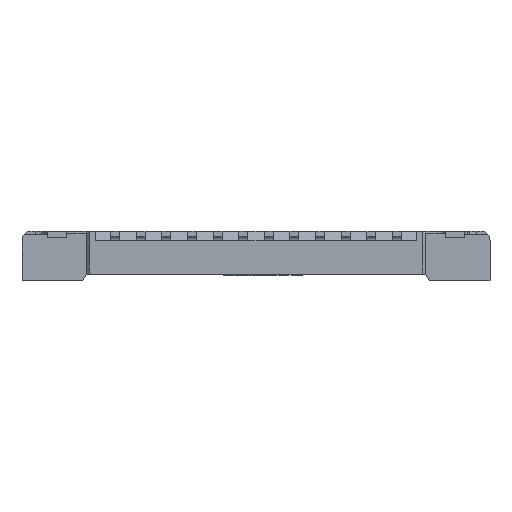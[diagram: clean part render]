
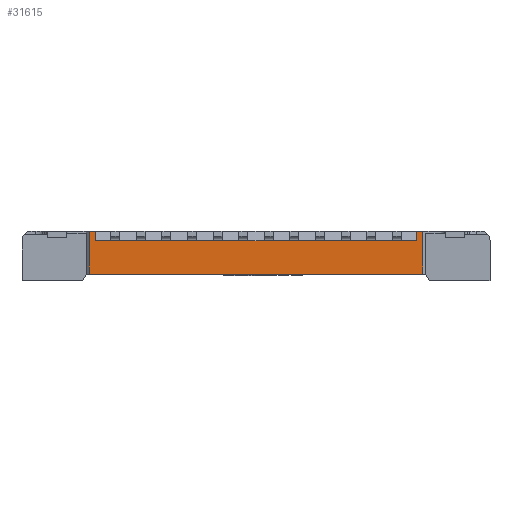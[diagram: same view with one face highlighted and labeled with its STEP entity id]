
A CAD part, top view. The second image highlights one B-rep face of the part: STEP entity #31615.
In plain terms, the highlighted planar face has unit normal (0, 0, 1).
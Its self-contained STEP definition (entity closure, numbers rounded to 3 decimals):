
#1195 = CARTESIAN_POINT ( 'NONE',  ( 2.6, 0.77, 1.1 ) ) ;
#2341 = CARTESIAN_POINT ( 'NONE',  ( -2.5, 0.62, 1.1 ) ) ;
#2760 = CARTESIAN_POINT ( 'NONE',  ( 2.5, 0.77, 1.1 ) ) ;
#3556 = CARTESIAN_POINT ( 'NONE',  ( -2.6, 0.1, 1.1 ) ) ;
#5243 = FACE_OUTER_BOUND ( 'NONE', #38778, .T. ) ;
#5848 = VERTEX_POINT ( 'NONE', #24535 ) ;
#6241 = AXIS2_PLACEMENT_3D ( 'NONE', #31354, #34463, #27643 ) ;
#7545 = ORIENTED_EDGE ( 'NONE', *, *, #38374, .F. ) ;
#8506 = LINE ( 'NONE', #21160, #12706 ) ;
#8823 = VERTEX_POINT ( 'NONE', #2760 ) ;
#9468 = CARTESIAN_POINT ( 'NONE',  ( 2.6, 0.1, 1.1 ) ) ;
#9781 = LINE ( 'NONE', #3556, #21197 ) ;
#10575 = CARTESIAN_POINT ( 'NONE',  ( 2.6, 0.1, 1.1 ) ) ;
#10917 = DIRECTION ( 'NONE',  ( 0., 1., 0. ) ) ;
#11115 = VECTOR ( 'NONE', #10917, 1000. ) ;
#11936 = LINE ( 'NONE', #21886, #28212 ) ;
#11973 = CARTESIAN_POINT ( 'NONE',  ( -2.5, 0.77, 1.1 ) ) ;
#12059 = PLANE ( 'NONE',  #6241 ) ;
#12080 = DIRECTION ( 'NONE',  ( 0., 1., 0. ) ) ;
#12616 = CARTESIAN_POINT ( 'NONE',  ( 2.5, 0.62, 1.1 ) ) ;
#12706 = VECTOR ( 'NONE', #33813, 1000. ) ;
#13695 = EDGE_CURVE ( 'NONE', #38308, #14841, #9781, .T. ) ;
#14078 = EDGE_CURVE ( 'NONE', #38308, #17613, #8506, .T. ) ;
#14279 = LINE ( 'NONE', #10575, #39287 ) ;
#14841 = VERTEX_POINT ( 'NONE', #9468 ) ;
#14912 = EDGE_CURVE ( 'NONE', #5848, #33620, #20609, .T. ) ;
#16957 = EDGE_CURVE ( 'NONE', #14841, #26755, #14279, .T. ) ;
#17309 = ORIENTED_EDGE ( 'NONE', *, *, #38637, .T. ) ;
#17613 = VERTEX_POINT ( 'NONE', #31848 ) ;
#17715 = LINE ( 'NONE', #2341, #38163 ) ;
#18367 = DIRECTION ( 'NONE',  ( 1., 0., 0. ) ) ;
#18381 = CARTESIAN_POINT ( 'NONE',  ( -2.5, 0.77, 1.1 ) ) ;
#18938 = ORIENTED_EDGE ( 'NONE', *, *, #16957, .T. ) ;
#19321 = DIRECTION ( 'NONE',  ( 1., 0., 0. ) ) ;
#19409 = VECTOR ( 'NONE', #22760, 1000. ) ;
#19468 = ORIENTED_EDGE ( 'NONE', *, *, #14078, .F. ) ;
#20520 = DIRECTION ( 'NONE',  ( 0., 1., 0. ) ) ;
#20609 = LINE ( 'NONE', #23178, #19409 ) ;
#21160 = CARTESIAN_POINT ( 'NONE',  ( -2.6, 0.1, 1.1 ) ) ;
#21197 = VECTOR ( 'NONE', #19321, 1000. ) ;
#21740 = LINE ( 'NONE', #23187, #11115 ) ;
#21757 = VERTEX_POINT ( 'NONE', #18381 ) ;
#21886 = CARTESIAN_POINT ( 'NONE',  ( 2.5, 0.77, 1.1 ) ) ;
#22760 = DIRECTION ( 'NONE',  ( 1., 0., 0. ) ) ;
#23178 = CARTESIAN_POINT ( 'NONE',  ( -2.5, 0.62, 1.1 ) ) ;
#23187 = CARTESIAN_POINT ( 'NONE',  ( 2.5, 0.62, 1.1 ) ) ;
#24438 = DIRECTION ( 'NONE',  ( -1., 0., 0. ) ) ;
#24535 = CARTESIAN_POINT ( 'NONE',  ( -2.5, 0.62, 1.1 ) ) ;
#26072 = ORIENTED_EDGE ( 'NONE', *, *, #38063, .T. ) ;
#26742 = EDGE_CURVE ( 'NONE', #33620, #8823, #21740, .T. ) ;
#26755 = VERTEX_POINT ( 'NONE', #1195 ) ;
#27001 = ORIENTED_EDGE ( 'NONE', *, *, #13695, .T. ) ;
#27029 = ORIENTED_EDGE ( 'NONE', *, *, #26742, .F. ) ;
#27643 = DIRECTION ( 'NONE',  ( 1., 0., 0. ) ) ;
#27788 = ORIENTED_EDGE ( 'NONE', *, *, #14912, .F. ) ;
#28212 = VECTOR ( 'NONE', #18367, 1000. ) ;
#31354 = CARTESIAN_POINT ( 'NONE',  ( 0.8, 0.435, 1.1 ) ) ;
#31615 = ADVANCED_FACE ( 'NONE', ( #5243 ), #12059, .T. ) ;
#31848 = CARTESIAN_POINT ( 'NONE',  ( -2.6, 0.77, 1.1 ) ) ;
#33620 = VERTEX_POINT ( 'NONE', #12616 ) ;
#33813 = DIRECTION ( 'NONE',  ( 0., 1., 0. ) ) ;
#34463 = DIRECTION ( 'NONE',  ( 0., 0., 1. ) ) ;
#38063 = EDGE_CURVE ( 'NONE', #21757, #17613, #40799, .T. ) ;
#38163 = VECTOR ( 'NONE', #12080, 1000. ) ;
#38308 = VERTEX_POINT ( 'NONE', #40352 ) ;
#38374 = EDGE_CURVE ( 'NONE', #8823, #26755, #11936, .T. ) ;
#38637 = EDGE_CURVE ( 'NONE', #5848, #21757, #17715, .T. ) ;
#38778 = EDGE_LOOP ( 'NONE', ( #18938, #7545, #27029, #27788, #17309, #26072, #19468, #27001 ) ) ;
#39287 = VECTOR ( 'NONE', #20520, 1000. ) ;
#39437 = VECTOR ( 'NONE', #24438, 1000. ) ;
#40352 = CARTESIAN_POINT ( 'NONE',  ( -2.6, 0.1, 1.1 ) ) ;
#40799 = LINE ( 'NONE', #11973, #39437 ) ;
